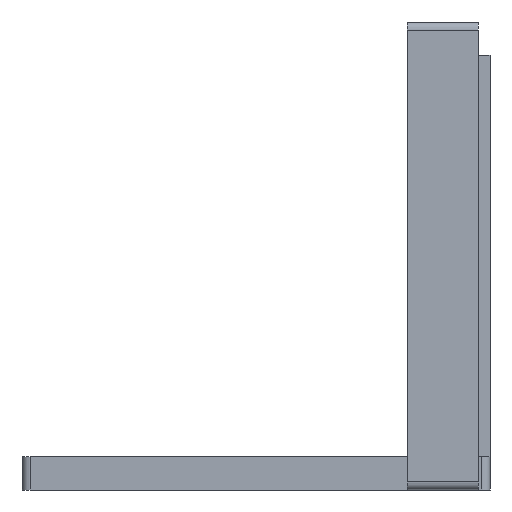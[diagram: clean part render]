
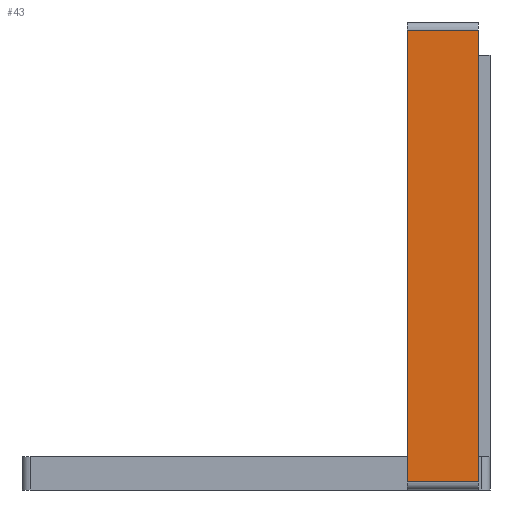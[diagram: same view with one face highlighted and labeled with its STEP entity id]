
A CAD part, left-side view. The second image highlights one B-rep face of the part: STEP entity #43.
In plain terms, the highlighted planar face has unit normal (-1, 0, 0).
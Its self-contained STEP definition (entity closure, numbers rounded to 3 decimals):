
#43 = ADVANCED_FACE('',(#44),#58,.F.);
#44 = FACE_BOUND('',#45,.F.);
#45 = EDGE_LOOP('',(#46,#81,#109,#137));
#46 = ORIENTED_EDGE('',*,*,#47,.F.);
#47 = EDGE_CURVE('',#48,#50,#52,.T.);
#48 = VERTEX_POINT('',#49);
#49 = CARTESIAN_POINT('',(0.,9.9,1.));
#50 = VERTEX_POINT('',#51);
#51 = CARTESIAN_POINT('',(0.,1.4,1.));
#52 = SURFACE_CURVE('',#53,(#57,#69),.PCURVE_S1.);
#53 = LINE('',#54,#55);
#54 = CARTESIAN_POINT('',(0.,9.9,1.));
#55 = VECTOR('',#56,1.);
#56 = DIRECTION('',(0.,-1.,0.));
#57 = PCURVE('',#58,#63);
#58 = PLANE('',#59);
#59 = AXIS2_PLACEMENT_3D('',#60,#61,#62);
#60 = CARTESIAN_POINT('',(0.,9.9,0.));
#61 = DIRECTION('',(1.,0.,0.));
#62 = DIRECTION('',(0.,-1.,0.));
#63 = DEFINITIONAL_REPRESENTATION('',(#64),#68);
#64 = LINE('',#65,#66);
#65 = CARTESIAN_POINT('',(0.,-1.));
#66 = VECTOR('',#67,1.);
#67 = DIRECTION('',(1.,0.));
#68 = ( GEOMETRIC_REPRESENTATION_CONTEXT(2) 
PARAMETRIC_REPRESENTATION_CONTEXT() REPRESENTATION_CONTEXT('2D SPACE',''
  ) );
#69 = PCURVE('',#70,#75);
#70 = CYLINDRICAL_SURFACE('',#71,1.);
#71 = AXIS2_PLACEMENT_3D('',#72,#73,#74);
#72 = CARTESIAN_POINT('',(1.,9.9,1.));
#73 = DIRECTION('',(0.,-1.,0.));
#74 = DIRECTION('',(-1.,-0.,0.));
#75 = DEFINITIONAL_REPRESENTATION('',(#76),#80);
#76 = LINE('',#77,#78);
#77 = CARTESIAN_POINT('',(0.,0.));
#78 = VECTOR('',#79,1.);
#79 = DIRECTION('',(0.,1.));
#80 = ( GEOMETRIC_REPRESENTATION_CONTEXT(2) 
PARAMETRIC_REPRESENTATION_CONTEXT() REPRESENTATION_CONTEXT('2D SPACE',''
  ) );
#81 = ORIENTED_EDGE('',*,*,#82,.T.);
#82 = EDGE_CURVE('',#48,#83,#85,.T.);
#83 = VERTEX_POINT('',#84);
#84 = CARTESIAN_POINT('',(0.,9.9,55.));
#85 = SURFACE_CURVE('',#86,(#90,#97),.PCURVE_S1.);
#86 = LINE('',#87,#88);
#87 = CARTESIAN_POINT('',(0.,9.9,0.));
#88 = VECTOR('',#89,1.);
#89 = DIRECTION('',(0.,0.,1.));
#90 = PCURVE('',#58,#91);
#91 = DEFINITIONAL_REPRESENTATION('',(#92),#96);
#92 = LINE('',#93,#94);
#93 = CARTESIAN_POINT('',(0.,0.));
#94 = VECTOR('',#95,1.);
#95 = DIRECTION('',(0.,-1.));
#96 = ( GEOMETRIC_REPRESENTATION_CONTEXT(2) 
PARAMETRIC_REPRESENTATION_CONTEXT() REPRESENTATION_CONTEXT('2D SPACE',''
  ) );
#97 = PCURVE('',#98,#103);
#98 = PLANE('',#99);
#99 = AXIS2_PLACEMENT_3D('',#100,#101,#102);
#100 = CARTESIAN_POINT('',(0.,9.9,0.));
#101 = DIRECTION('',(0.,-1.,0.));
#102 = DIRECTION('',(1.,0.,0.));
#103 = DEFINITIONAL_REPRESENTATION('',(#104),#108);
#104 = LINE('',#105,#106);
#105 = CARTESIAN_POINT('',(0.,0.));
#106 = VECTOR('',#107,1.);
#107 = DIRECTION('',(0.,1.));
#108 = ( GEOMETRIC_REPRESENTATION_CONTEXT(2) 
PARAMETRIC_REPRESENTATION_CONTEXT() REPRESENTATION_CONTEXT('2D SPACE',''
  ) );
#109 = ORIENTED_EDGE('',*,*,#110,.F.);
#110 = EDGE_CURVE('',#111,#83,#113,.T.);
#111 = VERTEX_POINT('',#112);
#112 = CARTESIAN_POINT('',(0.,1.4,55.));
#113 = SURFACE_CURVE('',#114,(#118,#125),.PCURVE_S1.);
#114 = LINE('',#115,#116);
#115 = CARTESIAN_POINT('',(0.,1.4,55.));
#116 = VECTOR('',#117,1.);
#117 = DIRECTION('',(0.,1.,0.));
#118 = PCURVE('',#58,#119);
#119 = DEFINITIONAL_REPRESENTATION('',(#120),#124);
#120 = LINE('',#121,#122);
#121 = CARTESIAN_POINT('',(8.5,-55.));
#122 = VECTOR('',#123,1.);
#123 = DIRECTION('',(-1.,0.));
#124 = ( GEOMETRIC_REPRESENTATION_CONTEXT(2) 
PARAMETRIC_REPRESENTATION_CONTEXT() REPRESENTATION_CONTEXT('2D SPACE',''
  ) );
#125 = PCURVE('',#126,#131);
#126 = CYLINDRICAL_SURFACE('',#127,1.);
#127 = AXIS2_PLACEMENT_3D('',#128,#129,#130);
#128 = CARTESIAN_POINT('',(1.,9.9,55.));
#129 = DIRECTION('',(0.,-1.,0.));
#130 = DIRECTION('',(-1.,-0.,0.));
#131 = DEFINITIONAL_REPRESENTATION('',(#132),#136);
#132 = LINE('',#133,#134);
#133 = CARTESIAN_POINT('',(-0.,8.5));
#134 = VECTOR('',#135,1.);
#135 = DIRECTION('',(-0.,-1.));
#136 = ( GEOMETRIC_REPRESENTATION_CONTEXT(2) 
PARAMETRIC_REPRESENTATION_CONTEXT() REPRESENTATION_CONTEXT('2D SPACE',''
  ) );
#137 = ORIENTED_EDGE('',*,*,#138,.F.);
#138 = EDGE_CURVE('',#50,#111,#139,.T.);
#139 = SURFACE_CURVE('',#140,(#144,#151),.PCURVE_S1.);
#140 = LINE('',#141,#142);
#141 = CARTESIAN_POINT('',(0.,1.4,0.));
#142 = VECTOR('',#143,1.);
#143 = DIRECTION('',(0.,0.,1.));
#144 = PCURVE('',#58,#145);
#145 = DEFINITIONAL_REPRESENTATION('',(#146),#150);
#146 = LINE('',#147,#148);
#147 = CARTESIAN_POINT('',(8.5,0.));
#148 = VECTOR('',#149,1.);
#149 = DIRECTION('',(0.,-1.));
#150 = ( GEOMETRIC_REPRESENTATION_CONTEXT(2) 
PARAMETRIC_REPRESENTATION_CONTEXT() REPRESENTATION_CONTEXT('2D SPACE',''
  ) );
#151 = PCURVE('',#152,#157);
#152 = PLANE('',#153);
#153 = AXIS2_PLACEMENT_3D('',#154,#155,#156);
#154 = CARTESIAN_POINT('',(0.,1.4,0.));
#155 = DIRECTION('',(0.,-1.,0.));
#156 = DIRECTION('',(1.,0.,0.));
#157 = DEFINITIONAL_REPRESENTATION('',(#158),#162);
#158 = LINE('',#159,#160);
#159 = CARTESIAN_POINT('',(0.,0.));
#160 = VECTOR('',#161,1.);
#161 = DIRECTION('',(0.,1.));
#162 = ( GEOMETRIC_REPRESENTATION_CONTEXT(2) 
PARAMETRIC_REPRESENTATION_CONTEXT() REPRESENTATION_CONTEXT('2D SPACE',''
  ) );
